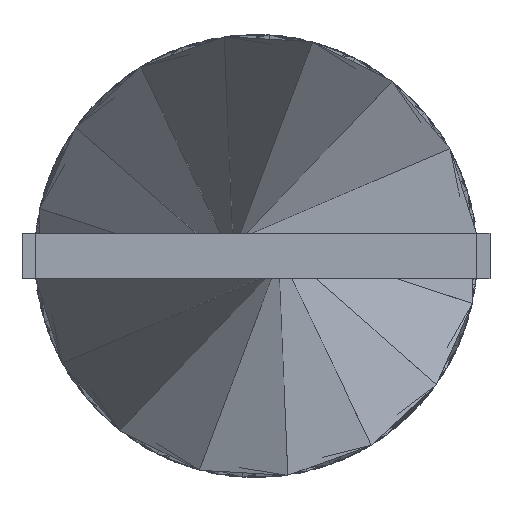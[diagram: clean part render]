
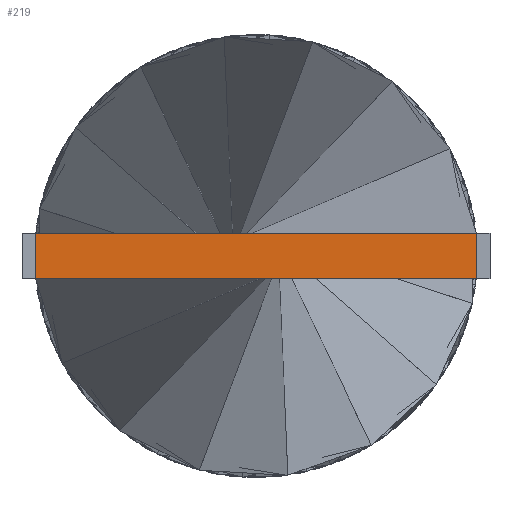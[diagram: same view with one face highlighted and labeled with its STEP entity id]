
A CAD part, front view. The second image highlights one B-rep face of the part: STEP entity #219.
In plain terms, the highlighted planar face has unit normal (0, -1, 0).
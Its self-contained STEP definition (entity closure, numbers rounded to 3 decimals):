
#61 = EDGE_CURVE ( 'NONE', #2319, #207, #174, .T. ) ;
#75 = CARTESIAN_POINT ( 'NONE',  ( 4.9, 0., -0.5 ) ) ;
#79 = CARTESIAN_POINT ( 'NONE',  ( -4.9, 0., -0.5 ) ) ;
#174 = LINE ( 'NONE', #2429, #1505 ) ;
#198 = VECTOR ( 'NONE', #1372, 1000. ) ;
#207 = VERTEX_POINT ( 'NONE', #430 ) ;
#219 = ADVANCED_FACE ( 'NONE', ( #1200 ), #1461, .T. ) ;
#239 = DIRECTION ( 'NONE',  ( 0., 0., 1. ) ) ;
#322 = LINE ( 'NONE', #1935, #535 ) ;
#430 = CARTESIAN_POINT ( 'NONE',  ( -4.9, 0., 0.5 ) ) ;
#535 = VECTOR ( 'NONE', #1140, 1000. ) ;
#598 = ORIENTED_EDGE ( 'NONE', *, *, #1010, .T. ) ;
#624 = CARTESIAN_POINT ( 'NONE',  ( 4.9, 0., 0.5 ) ) ;
#661 = VERTEX_POINT ( 'NONE', #75 ) ;
#698 = LINE ( 'NONE', #2153, #2018 ) ;
#720 = LINE ( 'NONE', #942, #198 ) ;
#778 = DIRECTION ( 'NONE',  ( 0., 0., -1. ) ) ;
#815 = AXIS2_PLACEMENT_3D ( 'NONE', #1165, #1987, #778 ) ;
#916 = VERTEX_POINT ( 'NONE', #624 ) ;
#942 = CARTESIAN_POINT ( 'NONE',  ( -4.9, 0., 0.5 ) ) ;
#985 = EDGE_CURVE ( 'NONE', #2319, #661, #322, .T. ) ;
#1010 = EDGE_CURVE ( 'NONE', #661, #916, #698, .T. ) ;
#1140 = DIRECTION ( 'NONE',  ( 1., 0., 0. ) ) ;
#1165 = CARTESIAN_POINT ( 'NONE',  ( -4.9, 0., -0.5 ) ) ;
#1200 = FACE_OUTER_BOUND ( 'NONE', #1954, .T. ) ;
#1372 = DIRECTION ( 'NONE',  ( 1., 0., 0. ) ) ;
#1412 = EDGE_CURVE ( 'NONE', #207, #916, #720, .T. ) ;
#1451 = DIRECTION ( 'NONE',  ( 0., 0., 1. ) ) ;
#1461 = PLANE ( 'NONE',  #815 ) ;
#1505 = VECTOR ( 'NONE', #1451, 1000. ) ;
#1676 = ORIENTED_EDGE ( 'NONE', *, *, #1412, .F. ) ;
#1935 = CARTESIAN_POINT ( 'NONE',  ( -4.9, 0., -0.5 ) ) ;
#1954 = EDGE_LOOP ( 'NONE', ( #598, #1676, #2369, #2461 ) ) ;
#1987 = DIRECTION ( 'NONE',  ( 0., -1., 0. ) ) ;
#2018 = VECTOR ( 'NONE', #239, 1000. ) ;
#2153 = CARTESIAN_POINT ( 'NONE',  ( 4.9, 0., -0.5 ) ) ;
#2319 = VERTEX_POINT ( 'NONE', #79 ) ;
#2369 = ORIENTED_EDGE ( 'NONE', *, *, #61, .F. ) ;
#2429 = CARTESIAN_POINT ( 'NONE',  ( -4.9, 0., -0.5 ) ) ;
#2461 = ORIENTED_EDGE ( 'NONE', *, *, #985, .T. ) ;
